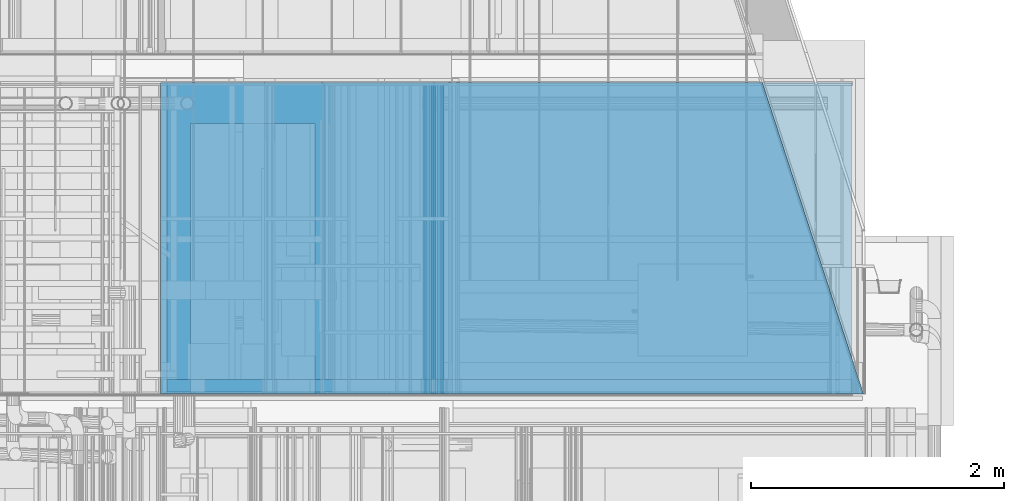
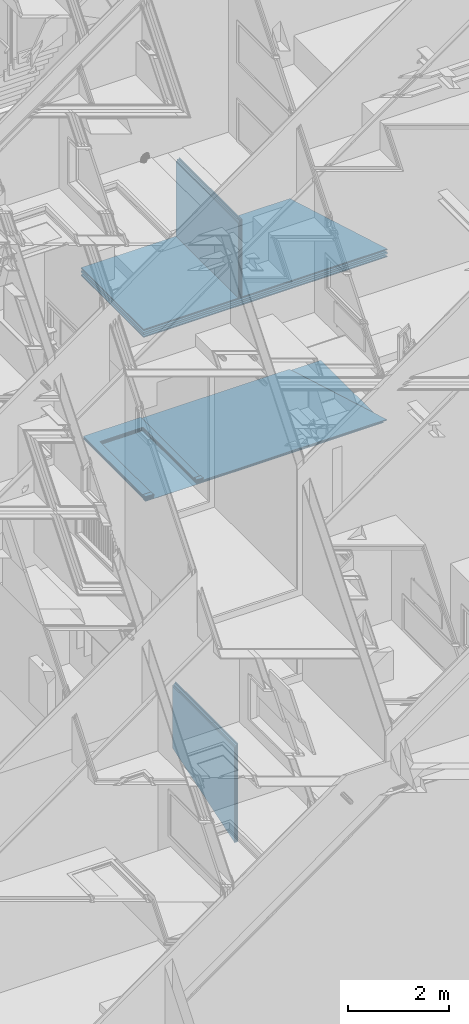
# One storey, part 162 of 583: 18 building element parts, 1 opening, 4 elements without a shape of their own.
"""IFC2X3 building model written with IfcOpenShell, lengths in metres."""

from ifc_helpers import new_model, entity, si_unit, converted_unit, derived_unit, money_unit, direction, frame, frame_2d, origin_with_axes, place, context, subcontext, project, spatial, polyline, rectangle, outline, extrude, clip, halfspace, material, type_object, element, aggregate, save


model = new_model("IFC2X3")

# Units and contexts
model_context = context("Model", 3, precision=1e-05, world=origin_with_axes(), true_north=direction((0.0, 1.0)))
body_context = subcontext(model_context, "Body", "Model", "MODEL_VIEW", scale=1.0)
ifc_project = project(units=[si_unit("LENGTHUNIT", "METRE"), si_unit("AREAUNIT", "SQUARE_METRE"), si_unit("VOLUMEUNIT", "CUBIC_METRE"), si_unit("ABSORBEDDOSEUNIT", "GRAY"), si_unit("AMOUNTOFSUBSTANCEUNIT", "MOLE"), si_unit("DOSEEQUIVALENTUNIT", "SIEVERT"), si_unit("ELECTRICCAPACITANCEUNIT", "FARAD"), si_unit("ELECTRICCHARGEUNIT", "COULOMB"), si_unit("ELECTRICCONDUCTANCEUNIT", "SIEMENS"), si_unit("ELECTRICCURRENTUNIT", "AMPERE"), si_unit("ELECTRICRESISTANCEUNIT", "OHM"), si_unit("ELECTRICVOLTAGEUNIT", "VOLT"), si_unit("ENERGYUNIT", "JOULE"), si_unit("FORCEUNIT", "NEWTON"), si_unit("FREQUENCYUNIT", "HERTZ"), si_unit("ILLUMINANCEUNIT", "LUX"), si_unit("INDUCTANCEUNIT", "HENRY"), si_unit("LUMINOUSFLUXUNIT", "LUMEN"), si_unit("LUMINOUSINTENSITYUNIT", "CANDELA"), si_unit("MAGNETICFLUXDENSITYUNIT", "TESLA"), si_unit("MAGNETICFLUXUNIT", "WEBER"), si_unit("MASSUNIT", "GRAM"), converted_unit("PLANEANGLEUNIT", "degree", entity("IfcReal", 0.0174532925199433), si_unit("PLANEANGLEUNIT", "RADIAN"), dimensions=[0, 0, 0, 0, 0, 0, 0]), si_unit("POWERUNIT", "WATT"), si_unit("PRESSUREUNIT", "PASCAL"), si_unit("RADIOACTIVITYUNIT", "BECQUEREL"), si_unit("SOLIDANGLEUNIT", "STERADIAN"), si_unit("THERMODYNAMICTEMPERATUREUNIT", "KELVIN"), si_unit("TIMEUNIT", "SECOND"), derived_unit("ACCELERATIONUNIT", [(si_unit("LENGTHUNIT", "METRE"), 1), (si_unit("TIMEUNIT", "SECOND"), -2)]), derived_unit("ANGULARVELOCITYUNIT", [(converted_unit("PLANEANGLEUNIT", "degree", entity("IfcReal", 0.0174532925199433), si_unit("PLANEANGLEUNIT", "RADIAN"), dimensions=[0, 0, 0, 0, 0, 0, 0]), 1), (si_unit("TIMEUNIT", "SECOND"), -1)]), derived_unit("CURVATUREUNIT", [(converted_unit("PLANEANGLEUNIT", "degree", entity("IfcReal", 0.0174532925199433), si_unit("PLANEANGLEUNIT", "RADIAN"), dimensions=[0, 0, 0, 0, 0, 0, 0]), 1), (si_unit("LENGTHUNIT", "METRE"), -1)]), derived_unit("DYNAMICVISCOSITYUNIT", [(si_unit("PRESSUREUNIT", "PASCAL"), 1), (si_unit("TIMEUNIT", "SECOND"), 1)]), derived_unit("HEATFLUXDENSITYUNIT", [(si_unit("POWERUNIT", "WATT"), 1), (si_unit("LENGTHUNIT", "METRE"), -2)]), derived_unit("HEATINGVALUEUNIT", [(si_unit("ENERGYUNIT", "JOULE"), 1), (si_unit("MASSUNIT", "GRAM"), -1)]), derived_unit("INTEGERCOUNTRATEUNIT", [(si_unit("TIMEUNIT", "SECOND"), -1)]), derived_unit("IONCONCENTRATIONUNIT", [(si_unit("MASSUNIT", "GRAM"), 1), (si_unit("VOLUMEUNIT", "CUBIC_METRE"), -1)]), derived_unit("ISOTHERMALMOISTURECAPACITYUNIT", [(si_unit("VOLUMEUNIT", "CUBIC_METRE"), 1), (si_unit("MASSUNIT", "GRAM"), -1)]), derived_unit("KINEMATICVISCOSITYUNIT", [(si_unit("AREAUNIT", "SQUARE_METRE"), 1), (si_unit("TIMEUNIT", "SECOND"), -1)]), derived_unit("LINEARFORCEUNIT", [(si_unit("FORCEUNIT", "NEWTON"), 1), (si_unit("LENGTHUNIT", "METRE"), -1)]), derived_unit("LINEARMOMENTUNIT", [(si_unit("FORCEUNIT", "NEWTON"), 1), (si_unit("LENGTHUNIT", "METRE"), -1)]), derived_unit("LINEARSTIFFNESSUNIT", [(si_unit("FORCEUNIT", "NEWTON"), 1), (si_unit("LENGTHUNIT", "METRE"), -1)]), derived_unit("LINEARVELOCITYUNIT", [(si_unit("LENGTHUNIT", "METRE"), 1), (si_unit("TIMEUNIT", "SECOND"), -1)]), derived_unit("LUMINOUSINTENSITYDISTRIBUTIONUNIT", [(si_unit("LUMINOUSINTENSITYUNIT", "CANDELA"), 1), (si_unit("LUMINOUSFLUXUNIT", "LUMEN"), -1)]), derived_unit("MASSDENSITYUNIT", [(si_unit("MASSUNIT", "GRAM"), 1), (si_unit("VOLUMEUNIT", "CUBIC_METRE"), -1)]), derived_unit("MASSFLOWRATEUNIT", [(si_unit("MASSUNIT", "GRAM"), 1), (si_unit("TIMEUNIT", "SECOND"), -1)]), derived_unit("MASSPERLENGTHUNIT", [(si_unit("MASSUNIT", "GRAM"), 1), (si_unit("LENGTHUNIT", "METRE"), -1)]), derived_unit("MODULUSOFELASTICITYUNIT", [(si_unit("FORCEUNIT", "NEWTON"), 1), (si_unit("AREAUNIT", "SQUARE_METRE"), -1)]), derived_unit("MODULUSOFLINEARSUBGRADEREACTIONUNIT", [(si_unit("FORCEUNIT", "NEWTON"), 1), (si_unit("LENGTHUNIT", "METRE"), -2)]), derived_unit("MODULUSOFROTATIONALSUBGRADEREACTIONUNIT", [(si_unit("FORCEUNIT", "NEWTON"), 1), (si_unit("LENGTHUNIT", "METRE"), 1)]), derived_unit("MODULUSOFSUBGRADEREACTIONUNIT", [(si_unit("FORCEUNIT", "NEWTON"), 1), (si_unit("VOLUMEUNIT", "CUBIC_METRE"), -1)]), derived_unit("MOISTUREDIFFUSIVITYUNIT", [(si_unit("VOLUMEUNIT", "CUBIC_METRE"), 1), (si_unit("TIMEUNIT", "SECOND"), -1)]), derived_unit("MOLECULARWEIGHTUNIT", [(si_unit("MASSUNIT", "GRAM"), 1), (si_unit("AMOUNTOFSUBSTANCEUNIT", "MOLE"), -1)]), derived_unit("PLANARFORCEUNIT", [(si_unit("FORCEUNIT", "NEWTON"), 1), (si_unit("LENGTHUNIT", "METRE"), -2)]), derived_unit("ROTATIONALFREQUENCYUNIT", [(si_unit("TIMEUNIT", "SECOND"), -1)]), derived_unit("ROTATIONALMASSUNIT", [(si_unit("MASSUNIT", "GRAM"), 1), (si_unit("LENGTHUNIT", "METRE"), 2)]), derived_unit("ROTATIONALSTIFFNESSUNIT", [(si_unit("FORCEUNIT", "NEWTON"), 1), (si_unit("LENGTHUNIT", "METRE"), 1), (converted_unit("PLANEANGLEUNIT", "degree", entity("IfcReal", 0.0174532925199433), si_unit("PLANEANGLEUNIT", "RADIAN"), dimensions=[0, 0, 0, 0, 0, 0, 0]), -1)]), derived_unit("SECTIONAREAINTEGRALUNIT", [(si_unit("LENGTHUNIT", "METRE"), 5)]), derived_unit("SECTIONMODULUSUNIT", [(si_unit("LENGTHUNIT", "METRE"), 3)]), derived_unit("SHEARMODULUSUNIT", [(si_unit("FORCEUNIT", "NEWTON"), 1), (si_unit("AREAUNIT", "SQUARE_METRE"), -1)]), derived_unit("SOUNDPOWERUNIT", [(si_unit("ENERGYUNIT", "JOULE"), 1), (si_unit("TIMEUNIT", "SECOND"), -1)]), derived_unit("SPECIFICHEATCAPACITYUNIT", [(si_unit("FORCEUNIT", "NEWTON"), 1), (si_unit("MASSUNIT", "GRAM"), -1), (si_unit("THERMODYNAMICTEMPERATUREUNIT", "KELVIN"), -1)]), derived_unit("TEMPERATUREGRADIENTUNIT", [(si_unit("THERMODYNAMICTEMPERATUREUNIT", "KELVIN"), 1), (si_unit("LENGTHUNIT", "METRE"), -1)]), derived_unit("THERMALADMITTANCEUNIT", [(si_unit("POWERUNIT", "WATT"), 1), (si_unit("AREAUNIT", "SQUARE_METRE"), -1), (si_unit("THERMODYNAMICTEMPERATUREUNIT", "KELVIN"), -1)]), derived_unit("THERMALCONDUCTANCEUNIT", [(si_unit("POWERUNIT", "WATT"), 1), (si_unit("LENGTHUNIT", "METRE"), -1), (si_unit("THERMODYNAMICTEMPERATUREUNIT", "KELVIN"), -1)]), derived_unit("THERMALEXPANSIONCOEFFICIENTUNIT", [(si_unit("THERMODYNAMICTEMPERATUREUNIT", "KELVIN"), -1)]), derived_unit("THERMALRESISTANCEUNIT", [(si_unit("AREAUNIT", "SQUARE_METRE"), 1), (si_unit("POWERUNIT", "WATT"), -1)]), derived_unit("THERMALTRANSMITTANCEUNIT", [(si_unit("POWERUNIT", "WATT"), 1), (si_unit("AREAUNIT", "SQUARE_METRE"), -1), (si_unit("THERMODYNAMICTEMPERATUREUNIT", "KELVIN"), -1)]), derived_unit("TORQUEUNIT", [(si_unit("FORCEUNIT", "NEWTON"), 1), (si_unit("LENGTHUNIT", "METRE"), 1)]), derived_unit("VAPORPERMEABILITYUNIT", [(si_unit("MASSUNIT", "GRAM"), 1), (si_unit("TIMEUNIT", "SECOND"), -1)]), derived_unit("VOLUMETRICFLOWRATEUNIT", [(si_unit("VOLUMEUNIT", "CUBIC_METRE"), 1), (si_unit("TIMEUNIT", "SECOND"), -1)]), derived_unit("WARPINGCONSTANTUNIT", [(si_unit("LENGTHUNIT", "METRE"), 6)]), derived_unit("WARPINGMOMENTUNIT", [(si_unit("FORCEUNIT", "NEWTON"), 1), (si_unit("LENGTHUNIT", "METRE"), 2)]), money_unit("GBP")], contexts=[model_context])

# Site, building, storey
site_placement = place(None, origin_with_axes())
site = spatial("IfcSite", under=ifc_project, at=site_placement, Name="Site", CompositionType="ELEMENT")
building_placement = place(site_placement, origin_with_axes())
building = spatial("IfcBuilding", under=site, at=building_placement, Name="Building01", CompositionType="ELEMENT")
storey_placement = place(building_placement, frame((0.0, 0.0, 20.78), z_axis=(0.0, 0.0, 1.0), x_axis=(1.0, 0.0, 0.0)))
storey = spatial("IfcBuildingStorey", under=building, at=storey_placement, Name="RL", CompositionType="ELEMENT", Elevation=20.78)

# Wall, opening, building element parts
wall_type_1 = type_object("IfcWallType", Name="SHE_A-Walls_Type05b_Partition_80mm", PredefinedType="NOTDEFINED")
wall_1_placement = place(storey_placement, frame((8.871434, 14.98, -11.246976), z_axis=(0.0, 1.0, 0.0), x_axis=(1.0, 0.0, 0.0)))
wall_1 = element("IfcWall", 1, at=wall_1_placement, inside=storey, type_object=wall_type_1, Name="5B", ObjectType="SHE_A-Walls_Type05b_Partition_80mm")
opening_placement = place(wall_1_placement, frame((0.186506, -0.027, 0.0), z_axis=(0.0, 0.0, 1.0), x_axis=(1.0, 0.0, 0.0)))
element("IfcOpeningElement", 2, at=opening_placement, cuts=wall_1, Name="Opening", ObjectType="Opening", context=body_context, shape_type="SweptSolid", body=[
    extrude(rectangle(XDim=0.984, YDim=2.142, at=frame_2d((0.492, 1.071), x_axis=(1.0, 0.0))), frame((0.0, 0.078, 0.0), z_axis=(0.0, -1.0, 0.0), x_axis=(1.0, 0.0, 0.0)), (0.0, 0.0, 1.0), 0.156),
])
ifc_material_1 = material(Name="A_BSUK_Insulation")
placement_1 = place(wall_1_placement, origin_with_axes())
building_element_part_1 = element("IfcBuildingElementPart", 3, at=placement_1, material=ifc_material_1, Name="1", context=body_context, shape_type="Clipping", body=[
    clip(extrude(rectangle(XDim=5.50471, YDim=0.025, at=frame_2d((2.752355, 0.0125), x_axis=(-1.0, 0.0))), origin_with_axes(), (0.0, 0.0, 1.0), 2.468), halfspace(frame((4.979057, 0.0, 1.617794), z_axis=(-0.95105652, 0.0, -0.30901699), x_axis=(0.0, -1.0, 0.0)), True)),
])
ifc_material_2 = material(Name="A_BSUK_Walls_Timber")
building_element_part_2 = element("IfcBuildingElementPart", 4, at=placement_1, material=ifc_material_2, Name="2", context=body_context, shape_type="SweptSolid", body=[
    extrude(outline(polyline([(1.213506, 0.068), (0.0, 0.068), (0.0, 0.053), (1.228506, 0.053), (1.213506, 0.068)])), frame((0.0, 0.0, 0.015), z_axis=(0.0, 0.0, 1.0), x_axis=(1.0, 0.0, 0.0)), (0.0, 0.0, 1.0), 0.1),
])
ifc_material_3 = material(Name="A_BSUK_WallInternal_Finishes_Plasterboard")
building_element_part_3 = element("IfcBuildingElementPart", 5, at=placement_1, material=ifc_material_3, Name="3", context=body_context, shape_type="SweptSolid", body=[
    extrude(rectangle(XDim=1.243506, YDim=0.015, at=frame_2d((0.621753, 0.0455), x_axis=(-1.0, 0.0))), origin_with_axes(), (0.0, 0.0, 1.0), 2.468),
])
building_element_part_4 = element("IfcBuildingElementPart", 6, at=placement_1, material=ifc_material_3, Name="4", context=body_context, shape_type="SweptSolid", body=[
    extrude(outline(polyline([(1.293506, -0.012), (0.0, -0.012), (0.0, -0.027), (1.308506, -0.027), (1.293506, -0.012)])), origin_with_axes(), (0.0, 0.0, 1.0), 2.468),
])
building_element_part_5 = element("IfcBuildingElementPart", 7, at=placement_1, material=ifc_material_2, Name="5", context=body_context, shape_type="SweptSolid", body=[
    extrude(outline(polyline([(1.308506, -0.027), (0.0, -0.027), (0.0, -0.042), (1.323506, -0.042), (1.308506, -0.027)])), frame((0.0, 0.0, 0.015), z_axis=(0.0, 0.0, 1.0), x_axis=(1.0, 0.0, 0.0)), (0.0, 0.0, 1.0), 0.1),
])
building_element_part_6 = element("IfcBuildingElementPart", 8, at=placement_1, material=ifc_material_2, Name="6", context=body_context, shape_type="SweptSolid", body=[
    extrude(rectangle(XDim=5.424766, YDim=0.015, at=frame_2d((2.712383, 0.0605), x_axis=(-1.0, 0.0))), frame((0.0, 0.0, 0.015), z_axis=(0.0, 0.0, 1.0), x_axis=(1.0, 0.0, 0.0)), (0.0, 0.0, 1.0), 0.1),
])
building_element_part_7 = element("IfcBuildingElementPart", 9, at=placement_1, material=ifc_material_3, Name="7", context=body_context, shape_type="SweptSolid", body=[
    extrude(rectangle(XDim=5.424766, YDim=0.015, at=frame_2d((2.712383, 0.0455), x_axis=(-1.0, 0.0))), origin_with_axes(), (0.0, 0.0, 1.0), 2.468),
])
aggregate(wall_1, [building_element_part_1, building_element_part_2, building_element_part_3, building_element_part_4, building_element_part_5, building_element_part_6, building_element_part_7])

# Wall, building element parts
wall_type_2 = type_object("IfcWallType", Name="SHE_A-Walls_Type01d_Partywall_200mm_twin", PredefinedType="NOTDEFINED")
wall_2_placement = place(storey_placement, frame((8.82, 14.98, -7.205), z_axis=(0.0, 1.0, 0.0), x_axis=(1.0, 0.0, 0.0)))
wall_2 = element("IfcWall", 10, at=wall_2_placement, inside=storey, type_object=wall_type_2, Name="1D", ObjectType="SHE_A-Walls_Type01d_Partywall_200mm_twin")
placement_2 = place(wall_2_placement, origin_with_axes())
building_element_part_8 = element("IfcBuildingElementPart", 11, at=placement_2, material=ifc_material_1, Name="1", context=body_context, shape_type="Clipping", body=[
    clip(extrude(rectangle(XDim=5.566658, YDim=0.05, at=frame_2d((2.783329, 0.025), x_axis=(-1.0, 0.0))), origin_with_axes(), (0.0, 0.0, 1.0), 2.468), halfspace(frame((5.035089, 0.0, 1.636), z_axis=(-0.95105652, 0.0, -0.30901699), x_axis=(0.0, -1.0, 0.0)), True)),
])
building_element_part_9 = element("IfcBuildingElementPart", 12, at=placement_2, material=ifc_material_3, Name="3", context=body_context, shape_type="Clipping", body=[
    clip(extrude(rectangle(XDim=5.566658, YDim=0.015, at=frame_2d((2.783329, 0.1175), x_axis=(-1.0, 0.0))), origin_with_axes(), (0.0, 0.0, 1.0), 2.468), halfspace(frame((5.035089, 0.0, 1.636), z_axis=(-0.95105652, 0.0, -0.30901699), x_axis=(0.0, -1.0, 0.0)), True)),
])
building_element_part_10 = element("IfcBuildingElementPart", 13, at=placement_2, material=ifc_material_3, Name="4", context=body_context, shape_type="Clipping", body=[
    clip(extrude(rectangle(XDim=5.566658, YDim=0.015, at=frame_2d((2.783329, 0.1025), x_axis=(-1.0, 0.0))), origin_with_axes(), (0.0, 0.0, 1.0), 2.468), halfspace(frame((5.035089, 0.0, 1.636), z_axis=(-0.95105652, 0.0, -0.30901699), x_axis=(0.0, -1.0, 0.0)), True)),
])
building_element_part_11 = element("IfcBuildingElementPart", 14, at=placement_2, material=ifc_material_3, Name="5", context=body_context, shape_type="Clipping", body=[
    clip(extrude(rectangle(XDim=5.566658, YDim=0.015, at=frame_2d((2.783329, -0.0525), x_axis=(-1.0, 0.0))), origin_with_axes(), (0.0, 0.0, 1.0), 2.468), halfspace(frame((5.035089, 0.0, 1.636), z_axis=(-0.95105652, 0.0, -0.30901699), x_axis=(0.0, -1.0, 0.0)), True)),
])
building_element_part_12 = element("IfcBuildingElementPart", 15, at=placement_2, material=ifc_material_3, Name="6", context=body_context, shape_type="Clipping", body=[
    clip(extrude(rectangle(XDim=5.566658, YDim=0.015, at=frame_2d((2.783329, -0.0675), x_axis=(-1.0, 0.0))), origin_with_axes(), (0.0, 0.0, 1.0), 2.468), halfspace(frame((5.035089, 0.0, 1.636), z_axis=(-0.95105652, 0.0, -0.30901699), x_axis=(0.0, -1.0, 0.0)), True)),
])
aggregate(wall_2, [building_element_part_8, building_element_part_9, building_element_part_10, building_element_part_11, building_element_part_12])

wall_3_placement = place(storey_placement, frame((10.952915, 14.98, -17.907), z_axis=(0.0, 1.0, 0.0), x_axis=(0.0, 0.0, -1.0)))
wall_3 = element("IfcWall", 16, at=wall_3_placement, inside=storey, type_object=wall_type_1, Name="5B", ObjectType="SHE_A-Walls_Type05b_Partition_80mm")
placement_3 = place(wall_3_placement, origin_with_axes())
building_element_part_13 = element("IfcBuildingElementPart", 17, at=placement_3, material=ifc_material_1, Name="1", context=body_context, shape_type="Clipping", body=[
    clip(extrude(outline(polyline([(2.349143, 0.025), (0.025, 0.025), (0.0, 0.0), (2.349143, 0.0), (2.349143, 0.025)])), origin_with_axes(), (0.0, 0.0, 1.0), 2.468), halfspace(frame((2.12482, 0.0, 0.690396), z_axis=(-0.95105652, 0.0, -0.30901699), x_axis=(0.0, -1.0, 0.0)), True)),
])
building_element_part_14 = element("IfcBuildingElementPart", 18, at=placement_3, material=ifc_material_3, Name="3", context=body_context, shape_type="Clipping", body=[
    clip(extrude(outline(polyline([(2.349143, 0.053), (0.053, 0.053), (0.038, 0.038), (2.349143, 0.038), (2.349143, 0.053)])), origin_with_axes(), (0.0, 0.0, 1.0), 2.468), halfspace(frame((2.12482, 0.0, 0.690396), z_axis=(-0.95105652, 0.0, -0.30901699), x_axis=(0.0, -1.0, 0.0)), True)),
])
building_element_part_15 = element("IfcBuildingElementPart", 19, at=placement_3, material=ifc_material_3, Name="4", context=body_context, shape_type="Clipping", body=[
    clip(extrude(outline(polyline([(2.349143, -0.012), (-0.012, -0.012), (-0.027, -0.027), (2.349143, -0.027), (2.349143, -0.012)])), origin_with_axes(), (0.0, 0.0, 1.0), 2.468), halfspace(frame((2.12482, 0.0, 0.690396), z_axis=(-0.95105652, 0.0, -0.30901699), x_axis=(0.0, -1.0, 0.0)), True)),
])
aggregate(wall_3, [building_element_part_13, building_element_part_14, building_element_part_15])

wall_4_placement = place(storey_placement, frame((11.036789, 14.98, -5.278002), z_axis=(0.0, 1.0, 0.0), x_axis=(0.0, 0.0, -1.0)))
wall_4 = element("IfcWall", 20, at=wall_4_placement, inside=storey, type_object=wall_type_1, Name="5B", ObjectType="SHE_A-Walls_Type05b_Partition_80mm")
placement_4 = place(wall_4_placement, origin_with_axes())
building_element_part_16 = element("IfcBuildingElementPart", 21, at=placement_4, material=ifc_material_1, Name="1", context=body_context, shape_type="SweptSolid", body=[
    extrude(rectangle(XDim=1.851998, YDim=0.025, at=frame_2d((0.925999, 0.0125), x_axis=(-1.0, 0.0))), origin_with_axes(), (0.0, 0.0, 1.0), 2.468),
])
building_element_part_17 = element("IfcBuildingElementPart", 22, at=placement_4, material=ifc_material_3, Name="3", context=body_context, shape_type="SweptSolid", body=[
    extrude(outline(polyline([(1.851998, 0.053), (0.052, 0.053), (0.037, 0.038), (1.851998, 0.038), (1.851998, 0.053)])), origin_with_axes(), (0.0, 0.0, 1.0), 2.468),
])
building_element_part_18 = element("IfcBuildingElementPart", 23, at=placement_4, material=ifc_material_3, Name="4", context=body_context, shape_type="SweptSolid", body=[
    extrude(outline(polyline([(1.851998, -0.012), (-0.013, -0.012), (-0.028, -0.027), (1.851998, -0.027), (1.851998, -0.012)])), origin_with_axes(), (0.0, 0.0, 1.0), 2.468),
])
aggregate(wall_4, [building_element_part_16, building_element_part_17, building_element_part_18])

save(model, "model.ifc")
